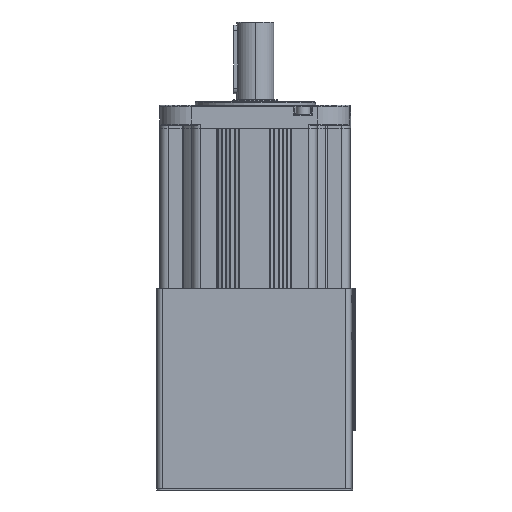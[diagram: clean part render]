
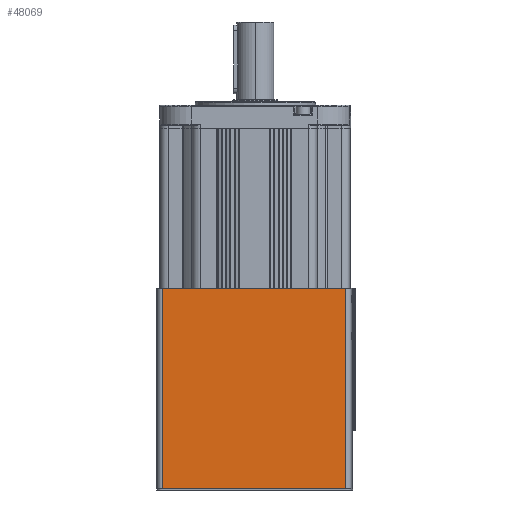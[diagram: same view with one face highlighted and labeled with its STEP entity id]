
A CAD part, front view. The second image highlights one B-rep face of the part: STEP entity #48069.
In plain terms, the highlighted planar face has unit normal (-0.009, -1, 0) as drawn and (0, -1, 0) by its records, which use the part's own axes.
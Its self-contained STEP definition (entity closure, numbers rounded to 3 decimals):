
#1240 = VECTOR ( 'NONE', #143928, 1000. ) ;
#10514 = VERTEX_POINT ( 'NONE', #110616 ) ;
#10626 = DIRECTION ( 'NONE',  ( 0., 0., -1. ) ) ;
#18712 = EDGE_CURVE ( 'NONE', #131897, #129019, #119535, .T. ) ;
#21185 = CARTESIAN_POINT ( 'NONE',  ( 87., -92., 191.5 ) ) ;
#24504 = DIRECTION ( 'NONE',  ( -1., 0., 0. ) ) ;
#30623 = ORIENTED_EDGE ( 'NONE', *, *, #86858, .T. ) ;
#45043 = PLANE ( 'NONE',  #118910 ) ;
#45909 = DIRECTION ( 'NONE',  ( 0., 0., -1. ) ) ;
#46234 = CARTESIAN_POINT ( 'NONE',  ( -87., -92., 1.5 ) ) ;
#48069 = ADVANCED_FACE ( 'NONE', ( #79444 ), #45043, .F. ) ;
#51505 = CARTESIAN_POINT ( 'NONE',  ( 87., -92., 191.5 ) ) ;
#56019 = VECTOR ( 'NONE', #45909, 1000. ) ;
#64898 = ORIENTED_EDGE ( 'NONE', *, *, #128627, .F. ) ;
#69931 = CARTESIAN_POINT ( 'NONE',  ( -87., -92., 191.5 ) ) ;
#72054 = CARTESIAN_POINT ( 'NONE',  ( -87., -92., 191.5 ) ) ;
#73075 = DIRECTION ( 'NONE',  ( 1., 0., 0. ) ) ;
#79444 = FACE_OUTER_BOUND ( 'NONE', #119147, .T. ) ;
#86858 = EDGE_CURVE ( 'NONE', #129019, #10514, #110119, .T. ) ;
#86876 = ORIENTED_EDGE ( 'NONE', *, *, #144324, .F. ) ;
#109925 = VECTOR ( 'NONE', #10626, 1000. ) ;
#110119 = LINE ( 'NONE', #46234, #112144 ) ;
#110616 = CARTESIAN_POINT ( 'NONE',  ( 87., -92., 1.5 ) ) ;
#112144 = VECTOR ( 'NONE', #73075, 1000. ) ;
#118232 = ORIENTED_EDGE ( 'NONE', *, *, #18712, .T. ) ;
#118910 = AXIS2_PLACEMENT_3D ( 'NONE', #119123, #120710, #24504 ) ;
#119123 = CARTESIAN_POINT ( 'NONE',  ( -87., -92., 191.5 ) ) ;
#119147 = EDGE_LOOP ( 'NONE', ( #30623, #86876, #64898, #118232 ) ) ;
#119535 = LINE ( 'NONE', #121200, #109925 ) ;
#120710 = DIRECTION ( 'NONE',  ( 0., 1., 0. ) ) ;
#121200 = CARTESIAN_POINT ( 'NONE',  ( -87., -92., 191.5 ) ) ;
#128627 = EDGE_CURVE ( 'NONE', #131897, #137669, #131819, .T. ) ;
#129019 = VERTEX_POINT ( 'NONE', #156612 ) ;
#131819 = LINE ( 'NONE', #72054, #1240 ) ;
#131897 = VERTEX_POINT ( 'NONE', #69931 ) ;
#137669 = VERTEX_POINT ( 'NONE', #51505 ) ;
#143928 = DIRECTION ( 'NONE',  ( 1., 0., 0. ) ) ;
#144324 = EDGE_CURVE ( 'NONE', #137669, #10514, #146234, .T. ) ;
#146234 = LINE ( 'NONE', #21185, #56019 ) ;
#156612 = CARTESIAN_POINT ( 'NONE',  ( -87., -92., 1.5 ) ) ;
